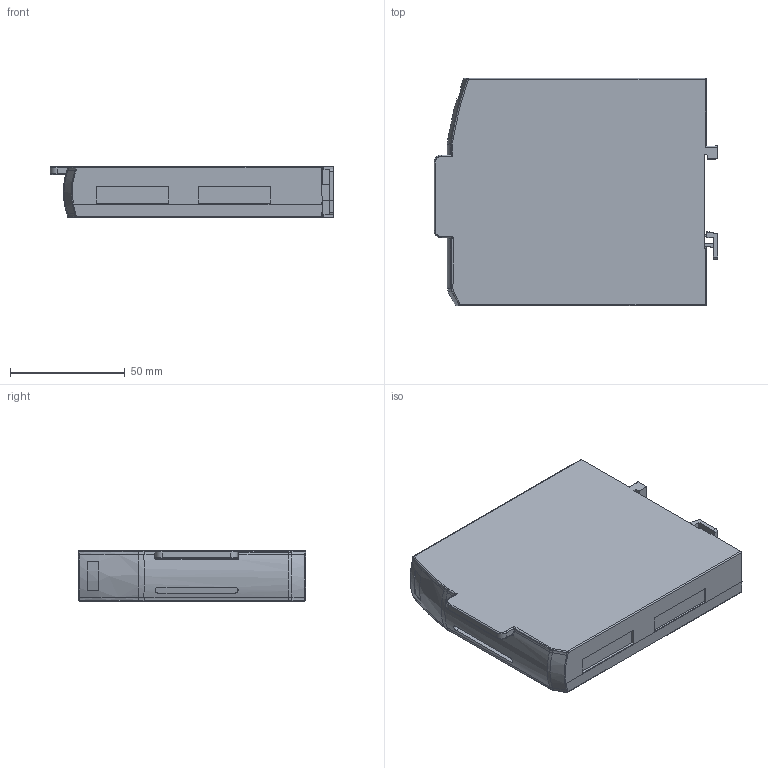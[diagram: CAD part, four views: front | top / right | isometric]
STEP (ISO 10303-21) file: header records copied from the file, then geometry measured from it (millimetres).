
FILE_DESCRIPTION (( 'STEP AP203' ), '1' );
FILE_NAME ('Loop Module - CC - 04.STEP', '2017-02-05T12:07:59', ( '' ), ( '' ), 'SwSTEP 2.0', 'SolidWorks 2016', '' );
FILE_SCHEMA (( 'CONFIG_CONTROL_DESIGN' ));
Length unit declared in the file: millimetre
Products named in the file (1): Loop Module - CC - 04
Bounding box: 123.72 x 99 x 22.05 mm (x, y, z)
Volume: 242310 mm3; surface area: 32947.5 mm2
Topology: 1 solids, 1 shells, 150 faces, 381 edges, 239 vertices
Faces by surface type: plane 82, bspline 31, cylinder 27, torus 4, sphere 4, cone 2
Entity records: 9037 total; most frequent: CARTESIAN_POINT 5754, ORIENTED_EDGE 762, DIRECTION 500, EDGE_CURVE 381, VERTEX_POINT 239, VECTOR 216, LINE 216, EDGE_LOOP 158
